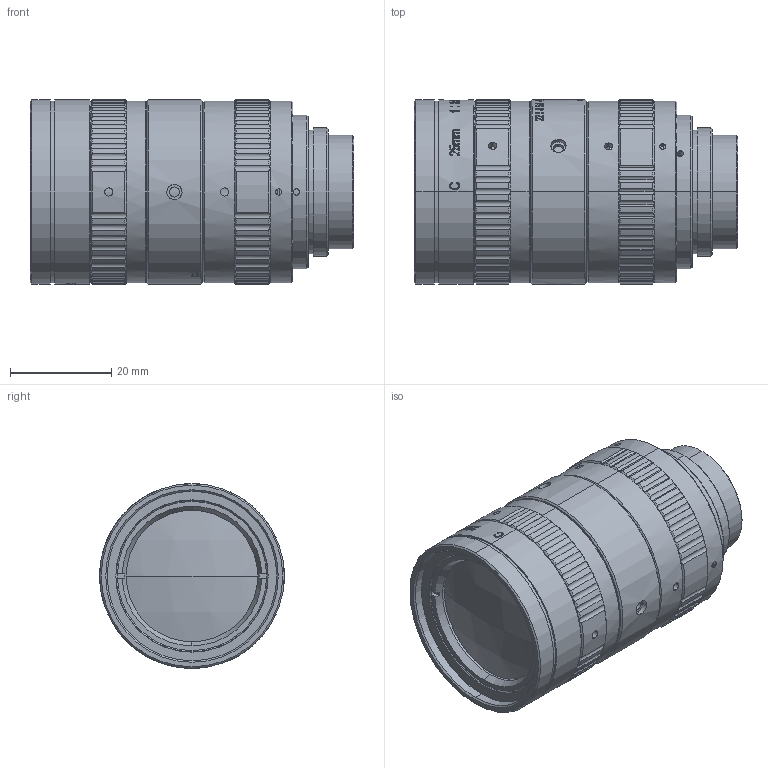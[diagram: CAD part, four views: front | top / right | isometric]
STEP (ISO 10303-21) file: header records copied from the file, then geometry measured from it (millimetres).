
FILE_DESCRIPTION (( 'STEP AP214' ), '1' );
FILE_NAME ('2514.STEP', '2023-04-26T02:28:56', ( 'MM' ), ( 'Microsoft' ), 'SwSTEP 2.0', 'SolidWorks 2019', '' );
FILE_SCHEMA (( 'AUTOMOTIVE_DESIGN' ));
Length unit declared in the file: millimetre
Products named in the file (14): 楊擘攫; 覃蝴忒謫; Oﾐﾍﾈｦ 1｡ﾁ0.8; ѹȦ2; 芵噩1; 嫖擊忒謫; M1.6｡ﾁ0.35｡ﾁ2ｼ筝ﾋﾎﾞﾍｷｽｨﾂﾝｶ､; 芵噩8; ѹȦ1; ヶ噩芠; 2514; 覦僅遠; 嫖擊え郪; 綴噩芠
Assembly tree (24 placements, depth 2):
  2514
    嫖擊え郪  x5
    ヶ噩芠
    嫖擊忒謫
    覦僅遠
    芵噩1
    綴噩芠
    楊擘攫
    覃蝴忒謫
    M1.6｡ﾁ0.35｡ﾁ2ｼ筝ﾋﾎﾞﾍｷｽｨﾂﾝｶ､  x6
    ѹȦ1
    芵噩8
    ѹȦ2
    Oﾐﾍﾈｦ 1｡ﾁ0.8  x3
Bounding box: 63.95 x 36.5 x 36.5 mm (x, y, z)
Volume: 24693.9 mm3; surface area: 29238.1 mm2
Topology: 37 solids, 37 shells, 1660 faces, 4227 edges, 2724 vertices
Faces by surface type: cylinder 558, bspline 459, plane 375, cone 248, torus 16, sphere 4
Entity records: 81050 total; most frequent: CARTESIAN_POINT 50357, ORIENTED_EDGE 6980, DIRECTION 4697, EDGE_CURVE 3490, VERTEX_POINT 2250, AXIS2_PLACEMENT_3D 1911, B_SPLINE_CURVE_WITH_KNOTS 1673, EDGE_LOOP 1546
